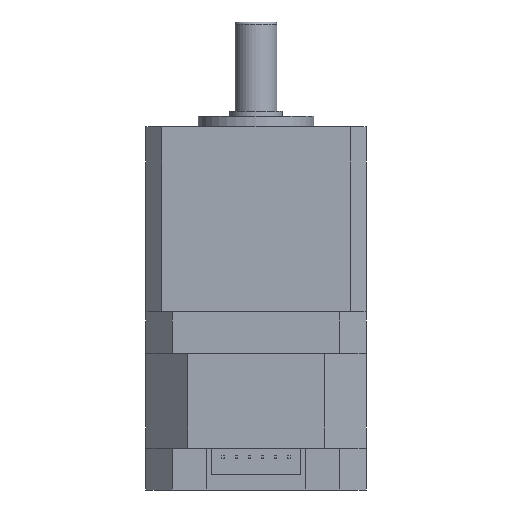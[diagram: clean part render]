
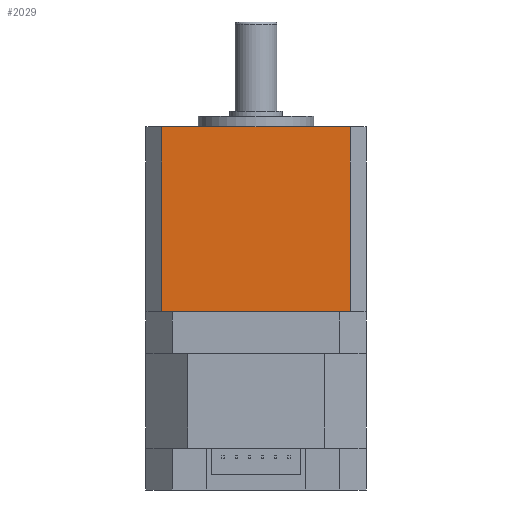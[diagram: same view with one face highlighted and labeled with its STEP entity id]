
A CAD part, front view. The second image highlights one B-rep face of the part: STEP entity #2029.
In plain terms, the highlighted planar face has unit normal (0, -1, 0).
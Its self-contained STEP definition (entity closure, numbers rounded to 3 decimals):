
#3 = VERTEX_POINT ( 'NONE', #965 ) ;
#40 = ORIENTED_EDGE ( 'NONE', *, *, #127, .T. ) ;
#63 = FACE_OUTER_BOUND ( 'NONE', #659, .T. ) ;
#127 = EDGE_CURVE ( 'NONE', #394, #1117, #1596, .T. ) ;
#156 = VECTOR ( 'NONE', #571, 1000. ) ;
#169 = VECTOR ( 'NONE', #486, 1000. ) ;
#223 = VERTEX_POINT ( 'NONE', #2216 ) ;
#260 = ORIENTED_EDGE ( 'NONE', *, *, #2069, .T. ) ;
#281 = CARTESIAN_POINT ( 'NONE',  ( -18., -21., -35.3 ) ) ;
#328 = VECTOR ( 'NONE', #3196, 1000. ) ;
#394 = VERTEX_POINT ( 'NONE', #2759 ) ;
#486 = DIRECTION ( 'NONE',  ( 1., 0., 0. ) ) ;
#571 = DIRECTION ( 'NONE',  ( 0., 0., -1. ) ) ;
#659 = EDGE_LOOP ( 'NONE', ( #40, #260, #2722, #2817 ) ) ;
#675 = LINE ( 'NONE', #281, #156 ) ;
#798 = LINE ( 'NONE', #2867, #328 ) ;
#917 = CARTESIAN_POINT ( 'NONE',  ( 18., -21., -35.3 ) ) ;
#965 = CARTESIAN_POINT ( 'NONE',  ( 18., -21., 0. ) ) ;
#1117 = VERTEX_POINT ( 'NONE', #917 ) ;
#1239 = EDGE_CURVE ( 'NONE', #3, #223, #798, .T. ) ;
#1296 = PLANE ( 'NONE',  #1949 ) ;
#1596 = LINE ( 'NONE', #3419, #169 ) ;
#1784 = DIRECTION ( 'NONE',  ( 0., -1., 0. ) ) ;
#1949 = AXIS2_PLACEMENT_3D ( 'NONE', #3182, #1784, #2330 ) ;
#2013 = VECTOR ( 'NONE', #3211, 1000. ) ;
#2029 = ADVANCED_FACE ( 'NONE', ( #63 ), #1296, .T. ) ;
#2069 = EDGE_CURVE ( 'NONE', #1117, #3, #2462, .T. ) ;
#2216 = CARTESIAN_POINT ( 'NONE',  ( -18., -21., 0. ) ) ;
#2250 = EDGE_CURVE ( 'NONE', #223, #394, #675, .T. ) ;
#2330 = DIRECTION ( 'NONE',  ( 0., 0., -1. ) ) ;
#2462 = LINE ( 'NONE', #3238, #2013 ) ;
#2722 = ORIENTED_EDGE ( 'NONE', *, *, #1239, .T. ) ;
#2759 = CARTESIAN_POINT ( 'NONE',  ( -18., -21., -35.3 ) ) ;
#2817 = ORIENTED_EDGE ( 'NONE', *, *, #2250, .T. ) ;
#2867 = CARTESIAN_POINT ( 'NONE',  ( -21., -21., 0. ) ) ;
#3182 = CARTESIAN_POINT ( 'NONE',  ( -21., -21., -35.3 ) ) ;
#3196 = DIRECTION ( 'NONE',  ( -1., 0., 0. ) ) ;
#3211 = DIRECTION ( 'NONE',  ( 0., 0., 1. ) ) ;
#3238 = CARTESIAN_POINT ( 'NONE',  ( 18., -21., -35.3 ) ) ;
#3419 = CARTESIAN_POINT ( 'NONE',  ( 21., -21., -35.3 ) ) ;
